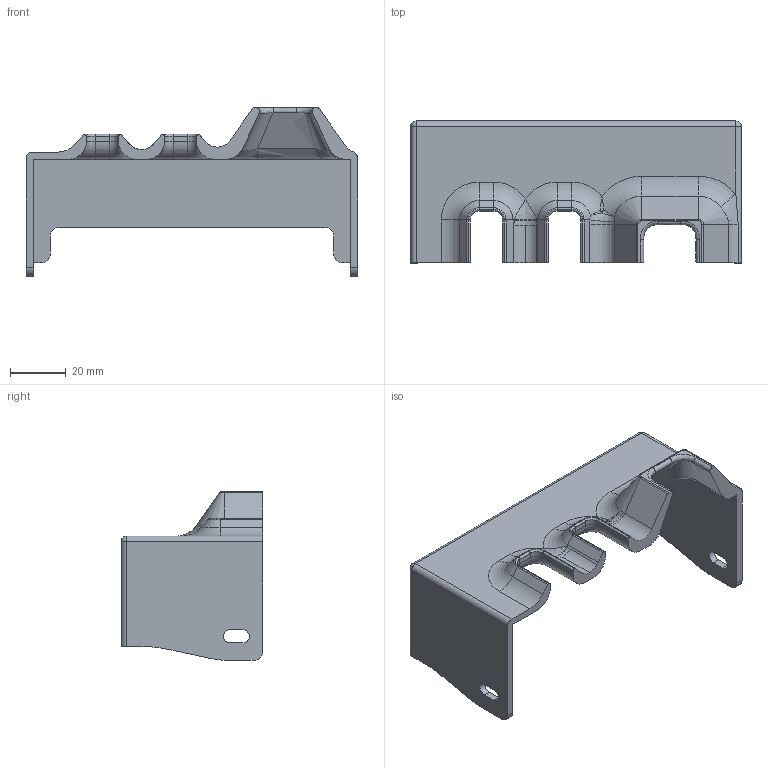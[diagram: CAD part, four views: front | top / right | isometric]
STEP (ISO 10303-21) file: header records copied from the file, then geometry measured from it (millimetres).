
FILE_DESCRIPTION (( 'STEP AP203' ), '1' );
FILE_NAME ('POWER SUPPLY COVER VER 2.STEP', '2020-01-16T18:30:16', ( '' ), ( '' ), 'SwSTEP 2.0', 'SolidWorks 2017', '' );
FILE_SCHEMA (( 'CONFIG_CONTROL_DESIGN' ));
Length unit declared in the file: inch
Products named in the file (1): POWER SUPPLY COVER VER 2
Bounding box: 118.58 x 50.8 x 60.33 mm (x, y, z)
Volume: 36835.8 mm3; surface area: 27437.5 mm2
Topology: 1 solids, 1 shells, 147 faces, 389 edges, 237 vertices
Faces by surface type: cylinder 53, plane 43, bspline 22, torus 20, cone 6, sphere 3
Entity records: 5780 total; most frequent: CARTESIAN_POINT 2154, ORIENTED_EDGE 764, DIRECTION 743, EDGE_CURVE 382, AXIS2_PLACEMENT_3D 283, VERTEX_POINT 237, LINE 177, VECTOR 177
